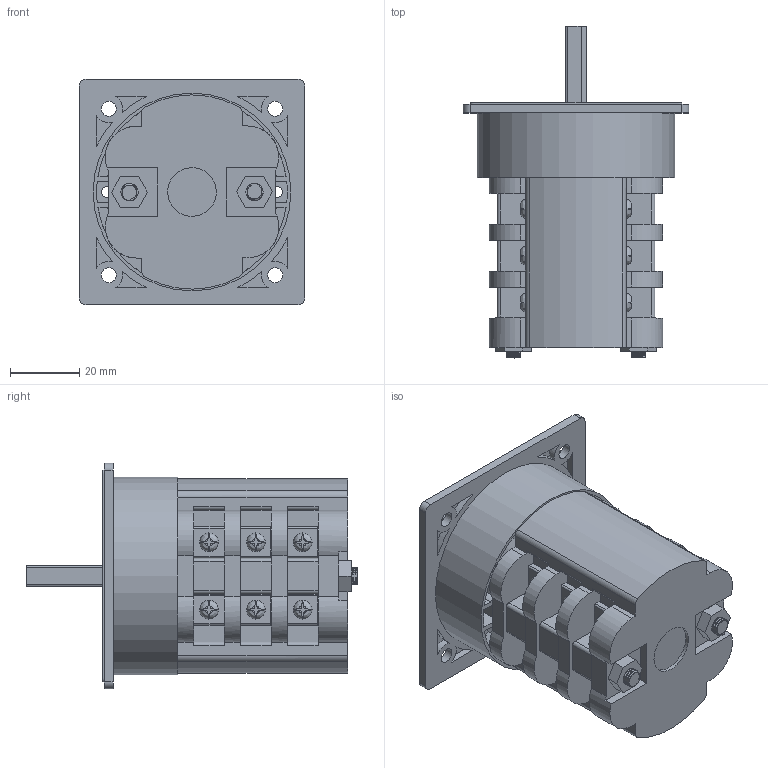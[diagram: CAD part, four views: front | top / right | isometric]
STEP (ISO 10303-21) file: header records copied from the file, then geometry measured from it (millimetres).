
FILE_DESCRIPTION(/* description */ (''),/* implementation_level */ '2;1');
FILE_NAME(/* name */ '4G16,25_standard_3_korpusy.stp',/* time_stamp */ '2021-07-21T13:34:30+02:00',/* author */ (''),/* organization */ (''),/* preprocessor_version */ 'ST-DEVELOPER v18.1',/* originating_system */ 'SIEMENS PLM Software NX 1965',/* authorisation */ '');
FILE_SCHEMA (('AUTOMOTIVE_DESIGN { 1 0 10303 214 3 1 1 1 }'));
Products named in the file (1): 4G16,25_standard_3_korpusy_stp
Bounding box: 65 x 95.7 x 65 mm (x, y, z)
Volume: 148982.8 mm3; surface area: 35791.9 mm2
Topology: 1 solids, 5 shells, 850 faces, 2385 edges, 1575 vertices
Faces by surface type: plane 470, cylinder 257, bspline 98, cone 25
Full cylindrical faces by diameter (mm): 3.3 x3, 4 x4, 4.3 x4, 5 x2, 5.4 x12, 6.5 x2, 7.2 x4, 10 x1, 14 x1, 57 x1
Entity records: 82085 total; most frequent: CARTESIAN_POINT 61316, ORIENTED_EDGE 4592, DIRECTION 3837, EDGE_CURVE 2296, VERTEX_POINT 1538, AXIS2_PLACEMENT_3D 1359, LINE 1119, VECTOR 1119
